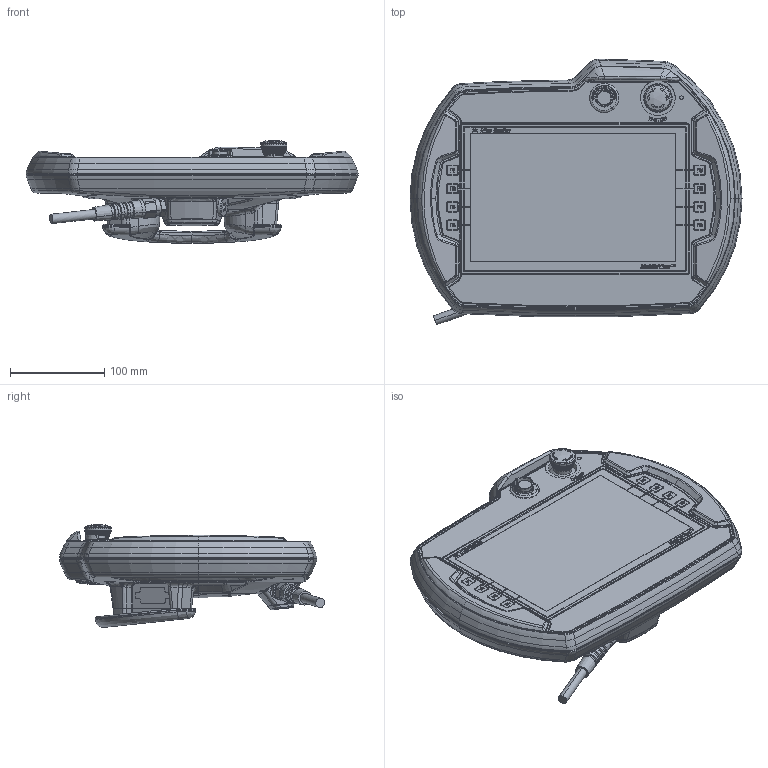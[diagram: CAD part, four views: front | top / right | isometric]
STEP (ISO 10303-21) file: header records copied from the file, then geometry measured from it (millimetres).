
FILE_DESCRIPTION((''),'2;1');
FILE_NAME('PRT0004','2015-06-12T',('wsbassin'),('Rockwell Automation'),'PRO/ENGINEER BY PARAMETRIC TECHNOLOGY CORPORATION, 2012480','PRO/ENGINEER BY PARAMETRIC TECHNOLOGY CORPORATION, 2012480','');
FILE_SCHEMA(('CONFIG_CONTROL_DESIGN'));
Products named in the file (1): PRT0004
Bounding box: 353 x 282.06 x 109.25 mm (x, y, z)
Surface area: 268572.1 mm2
Topology: 4 solids, 109 shells, 4605 faces, 13032 edges, 8452 vertices
Faces by surface type: plane 1524, cylinder 1187, bspline 608, torus 516, cone 403, extrusion 274, sphere 64, revolution 29
Entity records: 196349 total; most frequent: CARTESIAN_POINT 86559, ORIENTED_EDGE 24349, DIRECTION 19478, EDGE_CURVE 12981, VERTEX_POINT 8453, AXIS2_PLACEMENT_3D 7137, VECTOR 5175, B_SPLINE_CURVE_WITH_KNOTS 4941
